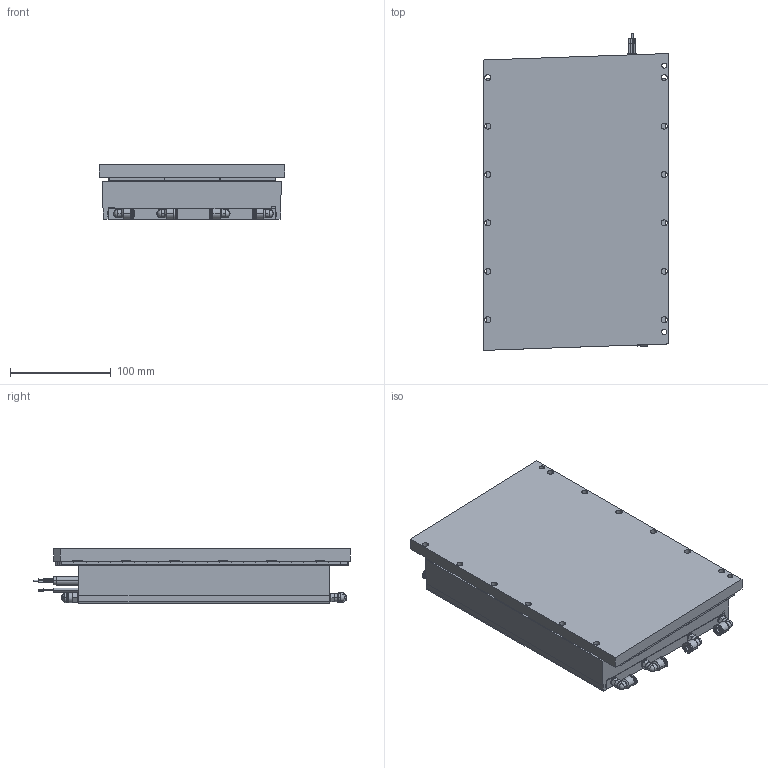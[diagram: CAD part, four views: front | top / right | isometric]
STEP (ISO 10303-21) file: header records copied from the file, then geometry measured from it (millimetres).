
FILE_DESCRIPTION (( 'STEP AP203' ), '1' );
FILE_NAME ('IC177WC-12 & MP177-288 3D.STEP', '2022-10-27T02:14:52', ( '' ), ( '' ), 'SwSTEP 2.0', 'SolidWorks 2021', '' );
FILE_SCHEMA (( 'CONFIG_CONTROL_DESIGN' ));
Length unit declared in the file: millimetre
Products named in the file (3): IC177WC-12 & MP177-288 3D; MP177-288; IC177WC-12 3D
Assembly tree (2 placements, depth 2):
  IC177WC-12 & MP177-288 3D
    IC177WC-12 3D
    MP177-288
Bounding box: 184 x 314.1 x 53.65 mm (x, y, z)
Volume: 2422210.1 mm3; surface area: 397459.9 mm2
Topology: 20 solids, 20 shells, 2489 faces, 6085 edges, 3354 vertices
Faces by surface type: cylinder 1087, plane 758, sphere 352, cone 234, torus 58
Entity records: 71108 total; most frequent: CARTESIAN_POINT 13411, DIRECTION 12859, ORIENTED_EDGE 11498, EDGE_CURVE 5749, AXIS2_PLACEMENT_3D 4950, VERTEX_POINT 3354, VECTOR 2959, LINE 2959
